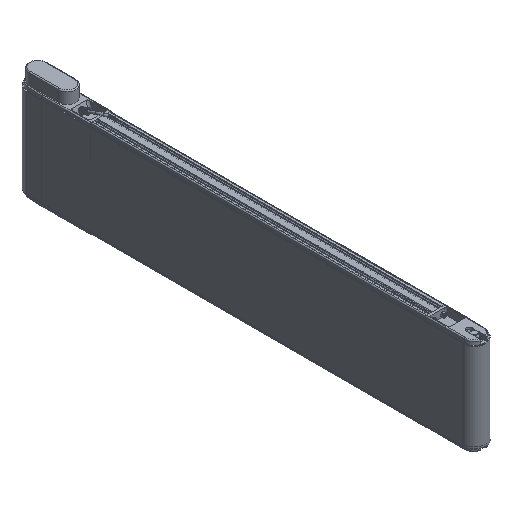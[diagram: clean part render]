
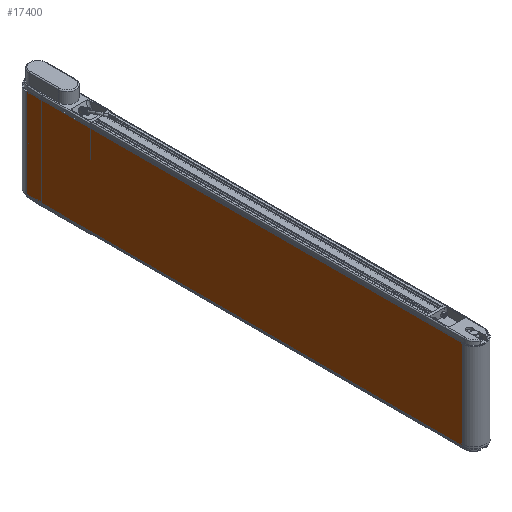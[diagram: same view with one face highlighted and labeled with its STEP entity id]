
A CAD part, isometric view. The second image highlights one B-rep face of the part: STEP entity #17400.
In plain terms, the highlighted planar face has unit normal (-1, 0, 0).
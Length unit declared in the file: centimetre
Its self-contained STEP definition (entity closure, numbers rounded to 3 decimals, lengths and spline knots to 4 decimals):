
#475=PLANE('',#18686);
#1359=FACE_OUTER_BOUND('',#2334,.T.);
#2334=EDGE_LOOP('',(#12391,#12392,#12393,#12394));
#4327=LINE('',#26893,#5684);
#4346=LINE('',#26934,#5703);
#4347=LINE('',#26937,#5704);
#4348=LINE('',#26938,#5705);
#5684=VECTOR('',#21400,1.);
#5703=VECTOR('',#21427,1.);
#5704=VECTOR('',#21430,1.);
#5705=VECTOR('',#21431,1.);
#7217=VERTEX_POINT('',#26887);
#7219=VERTEX_POINT('',#26891);
#7237=VERTEX_POINT('',#26932);
#7238=VERTEX_POINT('',#26936);
#9151=EDGE_CURVE('',#7217,#7219,#4327,.T.);
#9172=EDGE_CURVE('',#7219,#7237,#4346,.T.);
#9173=EDGE_CURVE('',#7237,#7238,#4347,.T.);
#9174=EDGE_CURVE('',#7217,#7238,#4348,.T.);
#12391=ORIENTED_EDGE('',*,*,#9151,.T.);
#12392=ORIENTED_EDGE('',*,*,#9172,.T.);
#12393=ORIENTED_EDGE('',*,*,#9173,.T.);
#12394=ORIENTED_EDGE('',*,*,#9174,.F.);
#17400=ADVANCED_FACE('',(#1359),#475,.T.);
#18686=AXIS2_PLACEMENT_3D('',#26935,#21428,#21429);
#21400=DIRECTION('',(0.,-1.,0.));
#21427=DIRECTION('',(0.,0.,1.));
#21428=DIRECTION('center_axis',(-1.,0.,0.));
#21429=DIRECTION('ref_axis',(0.,0.,
1.));
#21430=DIRECTION('',(0.,1.,0.));
#21431=DIRECTION('',(0.,0.,1.));
#26887=CARTESIAN_POINT('',(-2.33,13.,-9.25));
#26891=CARTESIAN_POINT('',(-2.33,-77.,-9.25));
#26893=CARTESIAN_POINT('',(-2.33,13.,-9.25));
#26932=CARTESIAN_POINT('',(-2.33,-77.,9.25));
#26934=CARTESIAN_POINT('',(-2.33,-77.,0.));
#26935=CARTESIAN_POINT('Origin',(-2.33,13.,0.));
#26936=CARTESIAN_POINT('',(-2.33,13.,9.25));
#26937=CARTESIAN_POINT('',(-2.33,13.,9.25));
#26938=CARTESIAN_POINT('',(-2.33,13.,0.));
